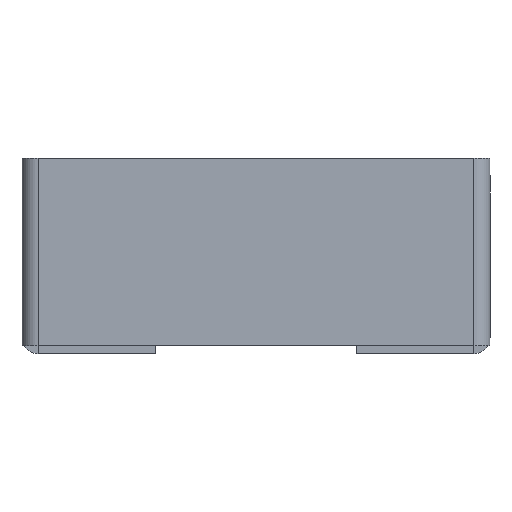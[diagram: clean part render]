
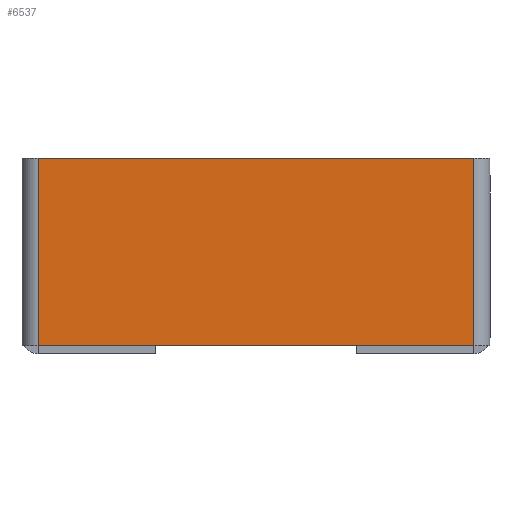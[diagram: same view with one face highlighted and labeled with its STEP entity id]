
A CAD part, front view. The second image highlights one B-rep face of the part: STEP entity #6537.
In plain terms, the highlighted planar face has unit normal (0, -1, 0).
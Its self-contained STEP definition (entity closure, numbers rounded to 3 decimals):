
#217 = VERTEX_POINT ( 'NONE', #2931 ) ;
#489 = EDGE_CURVE ( 'NONE', #6053, #4250, #6461, .T. ) ;
#586 = DIRECTION ( 'NONE',  ( -1., 0., 0. ) ) ;
#1331 = FACE_OUTER_BOUND ( 'NONE', #7636, .T. ) ;
#1719 = VERTEX_POINT ( 'NONE', #7322 ) ;
#1923 = EDGE_CURVE ( 'NONE', #217, #4250, #2856, .T. ) ;
#2141 = DIRECTION ( 'NONE',  ( 0., 1., 0. ) ) ;
#2248 = EDGE_CURVE ( 'NONE', #217, #1719, #8367, .T. ) ;
#2764 = CARTESIAN_POINT ( 'NONE',  ( 0., -2.5, 0. ) ) ;
#2856 = LINE ( 'NONE', #5637, #3258 ) ;
#2931 = CARTESIAN_POINT ( 'NONE',  ( -67.5, -2.5, 0. ) ) ;
#3058 = DIRECTION ( 'NONE',  ( 0., 0., -1. ) ) ;
#3061 = ORIENTED_EDGE ( 'NONE', *, *, #489, .F. ) ;
#3150 = VECTOR ( 'NONE', #4654, 1000. ) ;
#3194 = CARTESIAN_POINT ( 'NONE',  ( -70., -2.5, -58. ) ) ;
#3257 = CARTESIAN_POINT ( 'NONE',  ( -70., -2.5, 0. ) ) ;
#3258 = VECTOR ( 'NONE', #3058, 1000. ) ;
#3512 = VECTOR ( 'NONE', #5532, 1000. ) ;
#3700 = LINE ( 'NONE', #5558, #3512 ) ;
#4236 = CARTESIAN_POINT ( 'NONE',  ( 67.5, -2.5, -58. ) ) ;
#4250 = VERTEX_POINT ( 'NONE', #5333 ) ;
#4411 = ORIENTED_EDGE ( 'NONE', *, *, #1923, .T. ) ;
#4541 = EDGE_CURVE ( 'NONE', #6053, #1719, #3700, .T. ) ;
#4608 = VECTOR ( 'NONE', #586, 1000. ) ;
#4654 = DIRECTION ( 'NONE',  ( 1., 0., 0. ) ) ;
#5333 = CARTESIAN_POINT ( 'NONE',  ( -67.5, -2.5, -58. ) ) ;
#5532 = DIRECTION ( 'NONE',  ( 0., 0., 1. ) ) ;
#5558 = CARTESIAN_POINT ( 'NONE',  ( 67.5, -2.5, -58. ) ) ;
#5637 = CARTESIAN_POINT ( 'NONE',  ( -67.5, -2.5, 0. ) ) ;
#5643 = ORIENTED_EDGE ( 'NONE', *, *, #4541, .T. ) ;
#6053 = VERTEX_POINT ( 'NONE', #4236 ) ;
#6461 = LINE ( 'NONE', #3194, #4608 ) ;
#6537 = ADVANCED_FACE ( 'NONE', ( #1331 ), #6706, .F. ) ;
#6702 = ORIENTED_EDGE ( 'NONE', *, *, #2248, .F. ) ;
#6706 = PLANE ( 'NONE',  #6883 ) ;
#6883 = AXIS2_PLACEMENT_3D ( 'NONE', #2764, #2141, #7357 ) ;
#7322 = CARTESIAN_POINT ( 'NONE',  ( 67.5, -2.5, 0. ) ) ;
#7357 = DIRECTION ( 'NONE',  ( 0., 0., 1. ) ) ;
#7636 = EDGE_LOOP ( 'NONE', ( #4411, #3061, #5643, #6702 ) ) ;
#8367 = LINE ( 'NONE', #3257, #3150 ) ;
